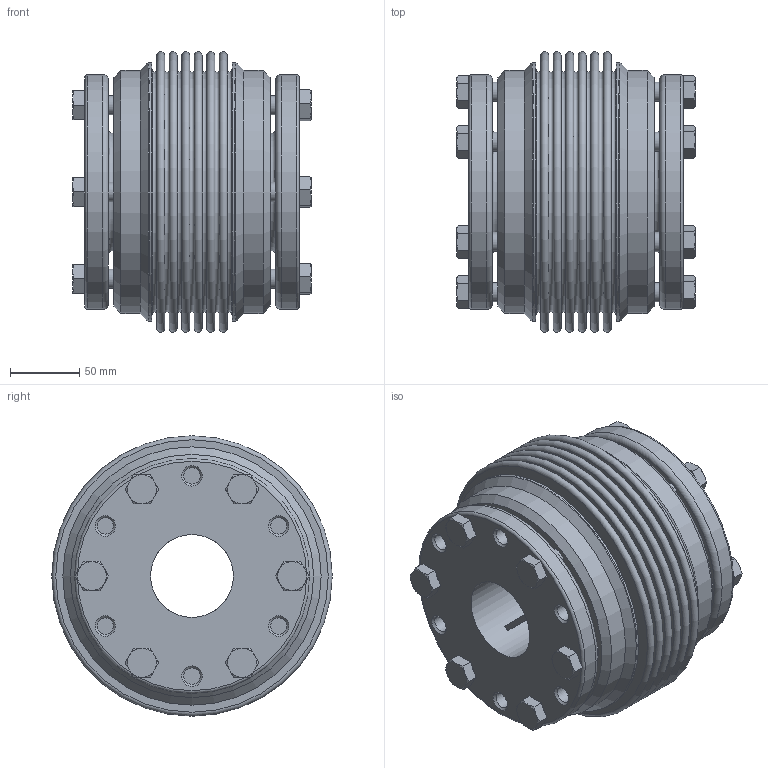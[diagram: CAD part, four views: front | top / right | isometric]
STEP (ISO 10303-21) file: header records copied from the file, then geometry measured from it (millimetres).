
FILE_DESCRIPTION(/* description */ ('Unknown','CAx-IF Rec.Pracs.---Representation and Presentation of Product Manufacturing Information (PMI)---4.0---2014-10-13','CAx-IF Rec.Pracs.---3D Tessellated Geometry---0.4---2014-09-14','2;1'),/* implementation_level */ '2;1');
FILE_NAME(/* name */ 'MB-03124759',/* time_stamp */ '2023-12-13T08:13:13+01:00',/* author */ ('Unknown'),/* organization */ ('Unknown'),/* preprocessor_version */ 'ST-DEVELOPER v18.102',/* originating_system */ 'Solid Edge',/* authorisation */ 'Unknown');
FILE_SCHEMA (('AP242_MANAGED_MODEL_BASED_3D_ENGINEERING_MIM_LF { 1 0 10303 442 1 1 4 }'));
Length unit declared in the file: millimetre
Products named in the file (1): MB-03124759
Bounding box: 172.61 x 203 x 203 mm (x, y, z)
Volume: 2674305.1 mm3; surface area: 574671.8 mm2
Topology: 1 solids, 13 shells, 480 faces, 1130 edges, 716 vertices
Faces by surface type: plane 186, cone 132, cylinder 92, torus 70
Full cylindrical faces by diameter (mm): 11.835 x24, 14 x24, 14.5 x12, 19.37 x12, 60 x2, 168 x2, 170 x2, 176 x2, 186 x2, 187 x2
Entity records: 15536 total; most frequent: CARTESIAN_POINT 2622, DIRECTION 2028, ORIENTED_EDGE 1640, AXIS2_PLACEMENT_3D 902, EDGE_CURVE 820, FACE_BOUND 812, EDGE_LOOP 800, VERTEX_POINT 632
